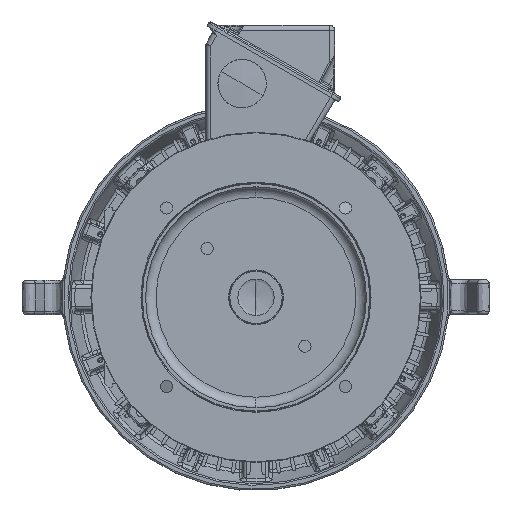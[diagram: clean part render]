
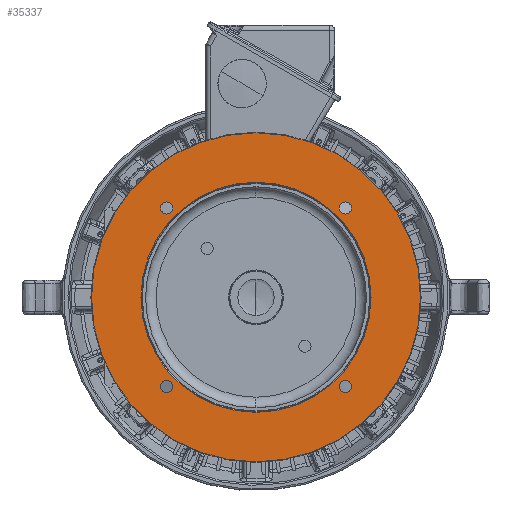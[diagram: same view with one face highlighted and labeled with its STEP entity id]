
A CAD part, front view. The second image highlights one B-rep face of the part: STEP entity #35337.
In plain terms, the highlighted planar face has unit normal (0, -1, 0) as drawn and (0, 0, -1) by its records, which use the part's own axes.
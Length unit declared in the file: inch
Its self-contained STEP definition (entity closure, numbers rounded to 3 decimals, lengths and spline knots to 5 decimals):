
#17418=CARTESIAN_POINT('',(0.,0.,-4.57));
#17419=DIRECTION('',(0.,0.,1.));
#17420=DIRECTION('',(0.,-1.,0.));
#17421=AXIS2_PLACEMENT_3D('',#17418,#17419,#17420);
#17423=CARTESIAN_POINT('',(0.,0.,-4.57));
#17424=DIRECTION('',(0.,0.,1.));
#17425=DIRECTION('',(0.,1.,0.));
#17426=AXIS2_PLACEMENT_3D('',#17423,#17424,#17425);
#17428=CARTESIAN_POINT('',(3.22617,3.22617,-4.57));
#17429=DIRECTION('',(0.,0.,1.));
#17430=DIRECTION('',(1.,0.,0.));
#17431=AXIS2_PLACEMENT_3D('',#17428,#17429,#17430);
#17433=CARTESIAN_POINT('',(3.22617,3.22617,-4.57));
#17434=DIRECTION('',(0.,0.,1.));
#17435=DIRECTION('',(-1.,0.,0.));
#17436=AXIS2_PLACEMENT_3D('',#17433,#17434,#17435);
#17438=CARTESIAN_POINT('',(3.22617,-3.22617,-4.57));
#17439=DIRECTION('',(0.,0.,1.));
#17440=DIRECTION('',(1.,0.,0.));
#17441=AXIS2_PLACEMENT_3D('',#17438,#17439,#17440);
#17443=CARTESIAN_POINT('',(3.22617,-3.22617,-4.57));
#17444=DIRECTION('',(0.,0.,1.));
#17445=DIRECTION('',(-1.,0.,0.));
#17446=AXIS2_PLACEMENT_3D('',#17443,#17444,#17445);
#17448=CARTESIAN_POINT('',(-3.22617,-3.22617,-4.57));
#17449=DIRECTION('',(0.,0.,1.));
#17450=DIRECTION('',(1.,0.,0.));
#17451=AXIS2_PLACEMENT_3D('',#17448,#17449,#17450);
#17453=CARTESIAN_POINT('',(-3.22617,-3.22617,-4.57));
#17454=DIRECTION('',(0.,0.,1.));
#17455=DIRECTION('',(-1.,0.,0.));
#17456=AXIS2_PLACEMENT_3D('',#17453,#17454,#17455);
#17458=CARTESIAN_POINT('',(-3.22617,3.22617,-4.57));
#17459=DIRECTION('',(0.,0.,1.));
#17460=DIRECTION('',(1.,0.,0.));
#17461=AXIS2_PLACEMENT_3D('',#17458,#17459,#17460);
#17463=CARTESIAN_POINT('',(-3.22617,3.22617,-4.57));
#17464=DIRECTION('',(0.,0.,1.));
#17465=DIRECTION('',(-1.,0.,0.));
#17466=AXIS2_PLACEMENT_3D('',#17463,#17464,#17465);
#17476=CARTESIAN_POINT('',(0.,0.,-4.57));
#17477=DIRECTION('',(0.,0.,-1.));
#17478=DIRECTION('',(0.,1.,0.));
#17479=AXIS2_PLACEMENT_3D('',#17476,#17477,#17478);
#17481=CARTESIAN_POINT('',(0.,0.,-4.57));
#17482=DIRECTION('',(0.,0.,1.));
#17483=DIRECTION('',(0.,1.,0.));
#17484=AXIS2_PLACEMENT_3D('',#17481,#17482,#17483);
#32675=CARTESIAN_POINT('',(0.,-5.94297,-4.57));
#32676=CARTESIAN_POINT('',(0.,5.94297,-4.57));
#32677=VERTEX_POINT('',#32675);
#32678=VERTEX_POINT('',#32676);
#32683=CARTESIAN_POINT('',(0.,4.156,-4.57));
#32684=VERTEX_POINT('',#32683);
#32695=CARTESIAN_POINT('',(0.,-4.156,-4.57));
#32696=VERTEX_POINT('',#32695);
#32759=CARTESIAN_POINT('',(3.44517,3.22617,-4.57));
#32760=CARTESIAN_POINT('',(3.00717,3.22617,-4.57));
#32761=VERTEX_POINT('',#32759);
#32762=VERTEX_POINT('',#32760);
#32767=CARTESIAN_POINT('',(3.44517,-3.22617,-4.57));
#32768=CARTESIAN_POINT('',(3.00717,-3.22617,-4.57));
#32769=VERTEX_POINT('',#32767);
#32770=VERTEX_POINT('',#32768);
#32775=CARTESIAN_POINT('',(-3.00717,-3.22617,-4.57));
#32776=CARTESIAN_POINT('',(-3.44517,-3.22617,-4.57));
#32777=VERTEX_POINT('',#32775);
#32778=VERTEX_POINT('',#32776);
#32783=CARTESIAN_POINT('',(-3.00717,3.22617,-4.57));
#32784=CARTESIAN_POINT('',(-3.44517,3.22617,-4.57));
#32785=VERTEX_POINT('',#32783);
#32786=VERTEX_POINT('',#32784);
#35297=CARTESIAN_POINT('',(0.,0.,-4.57));
#35298=DIRECTION('',(0.,0.,1.));
#35299=DIRECTION('',(0.,1.,0.));
#35300=AXIS2_PLACEMENT_3D('',#35297,#35298,#35299);
#35301=PLANE('',#35300);
#35302=ORIENTED_EDGE('',*,*,#35287,.T.);
#35304=ORIENTED_EDGE('',*,*,#35303,.T.);
#35305=EDGE_LOOP('',(#35302,#35304));
#35306=FACE_OUTER_BOUND('',#35305,.F.);
#35308=ORIENTED_EDGE('',*,*,#35307,.T.);
#35310=ORIENTED_EDGE('',*,*,#35309,.F.);
#35311=EDGE_LOOP('',(#35308,#35310));
#35312=FACE_BOUND('',#35311,.F.);
#35314=ORIENTED_EDGE('',*,*,#35313,.F.);
#35316=ORIENTED_EDGE('',*,*,#35315,.F.);
#35317=EDGE_LOOP('',(#35314,#35316));
#35318=FACE_BOUND('',#35317,.F.);
#35320=ORIENTED_EDGE('',*,*,#35319,.F.);
#35322=ORIENTED_EDGE('',*,*,#35321,.F.);
#35323=EDGE_LOOP('',(#35320,#35322));
#35324=FACE_BOUND('',#35323,.F.);
#35326=ORIENTED_EDGE('',*,*,#35325,.F.);
#35328=ORIENTED_EDGE('',*,*,#35327,.F.);
#35329=EDGE_LOOP('',(#35326,#35328));
#35330=FACE_BOUND('',#35329,.F.);
#35332=ORIENTED_EDGE('',*,*,#35331,.F.);
#35334=ORIENTED_EDGE('',*,*,#35333,.F.);
#35335=EDGE_LOOP('',(#35332,#35334));
#35336=FACE_BOUND('',#35335,.F.);
#35337=ADVANCED_FACE('',(#35306,#35312,#35318,#35324,#35330,#35336),#35301,.F.);
#17422=CIRCLE('',#17421,5.94297);
#17427=CIRCLE('',#17426,5.94297);
#17432=CIRCLE('',#17431,0.219);
#17437=CIRCLE('',#17436,0.219);
#17442=CIRCLE('',#17441,0.219);
#17447=CIRCLE('',#17446,0.219);
#17452=CIRCLE('',#17451,0.219);
#17457=CIRCLE('',#17456,0.219);
#17462=CIRCLE('',#17461,0.219);
#17467=CIRCLE('',#17466,0.219);
#17480=CIRCLE('',#17479,4.156);
#17485=CIRCLE('',#17484,4.156);
#35287=EDGE_CURVE('',#32677,#32678,#17422,.T.);
#35303=EDGE_CURVE('',#32678,#32677,#17427,.T.);
#35307=EDGE_CURVE('',#32684,#32696,#17480,.T.);
#35309=EDGE_CURVE('',#32684,#32696,#17485,.T.);
#35313=EDGE_CURVE('',#32761,#32762,#17432,.T.);
#35315=EDGE_CURVE('',#32762,#32761,#17437,.T.);
#35319=EDGE_CURVE('',#32769,#32770,#17442,.T.);
#35321=EDGE_CURVE('',#32770,#32769,#17447,.T.);
#35325=EDGE_CURVE('',#32777,#32778,#17452,.T.);
#35327=EDGE_CURVE('',#32778,#32777,#17457,.T.);
#35331=EDGE_CURVE('',#32785,#32786,#17462,.T.);
#35333=EDGE_CURVE('',#32786,#32785,#17467,.T.);
